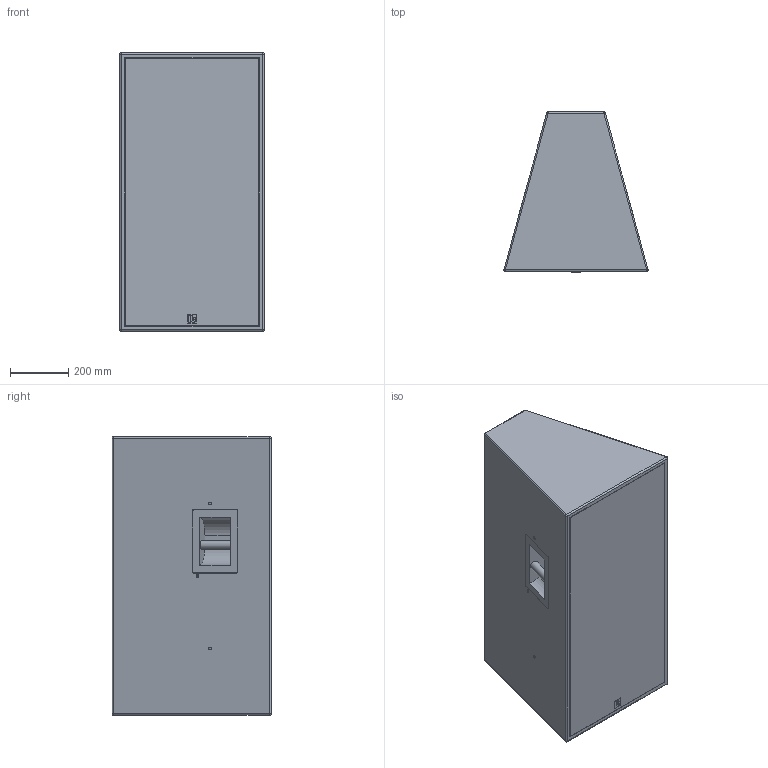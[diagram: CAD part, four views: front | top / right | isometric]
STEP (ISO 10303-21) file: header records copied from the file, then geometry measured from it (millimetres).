
FILE_DESCRIPTION(/* description */ (''),/* implementation_level */ '2;1');
FILE_NAME(/* name */ 'T212.stp',/* time_stamp */ '2024-08-21T16:35:29+02:00',/* author */ ('d.streicher'),/* organization */ (''),/* preprocessor_version */ 'ST-DEVELOPER v20',/* originating_system */ 'Autodesk Inventor 2025',/* authorisation */ '');
FILE_SCHEMA (('AUTOMOTIVE_DESIGN { 1 0 10303 214 3 1 1 }'));
Length unit declared in the file: millimetre
Products named in the file (1): T212
Bounding box: 496.88 x 551.5 x 960 mm (x, y, z)
Volume: 182665107.4 mm3; surface area: 2303799.7 mm2
Topology: 1 solids, 1 shells, 146 faces, 336 edges, 216 vertices
Faces by surface type: plane 82, cylinder 56, sphere 8
Full cylindrical faces by diameter (mm): 10 x8, 22 x2, 30 x2
Entity records: 4369 total; most frequent: DIRECTION 742, CARTESIAN_POINT 699, ORIENTED_EDGE 672, EDGE_CURVE 336, AXIS2_PLACEMENT_3D 259, LINE 224, VECTOR 224, VERTEX_POINT 216
